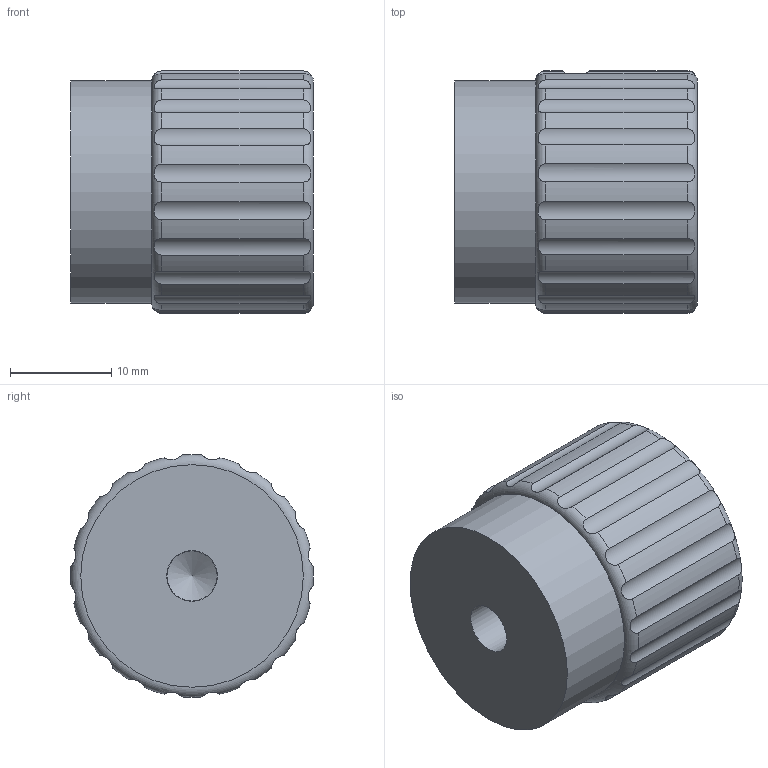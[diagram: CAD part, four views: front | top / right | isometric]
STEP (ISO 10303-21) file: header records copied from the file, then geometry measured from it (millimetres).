
FILE_DESCRIPTION( ( 'STEP AP203' ), '1' );
FILE_NAME( 'C:/Temp/Ganter_Step_05_03_2020/data/1_4/gn_436_1/gn_436_1_b/Stainless Steel-Control knob GN 436.1-24-B5-B-MT.stp', '2020-03-05T10:48:43', ( 'License CC BY-ND 4.0' ), ( 'CADENAS' ), ' ', 'PARTsolutions', ' ' );
FILE_SCHEMA( ( 'CONFIG_CONTROL_DESIGN' ) );
Length unit declared in the file: millimetre
Products named in the file (1): _Stainless Steel-Control knob GN 436.1-24-B5-B-MT
Bounding box: 24 x 24 x 24 mm (x, y, z)
Volume: 9689.6 mm3; surface area: 2997.1 mm2
Topology: 1 solids, 1 shells, 63 faces, 173 edges, 115 vertices
Faces by surface type: cylinder 46, plane 12, cone 3, torus 2
Full cylindrical faces by diameter (mm): 3.242 x2, 4.96 x1, 5 x1, 22 x1
Entity records: 2632 total; most frequent: CARTESIAN_POINT 1106, ORIENTED_EDGE 312, DIRECTION 290, EDGE_CURVE 156, AXIS2_PLACEMENT_3D 115, VERTEX_POINT 109, EDGE_LOOP 76, FACE_OUTER_BOUND 70
